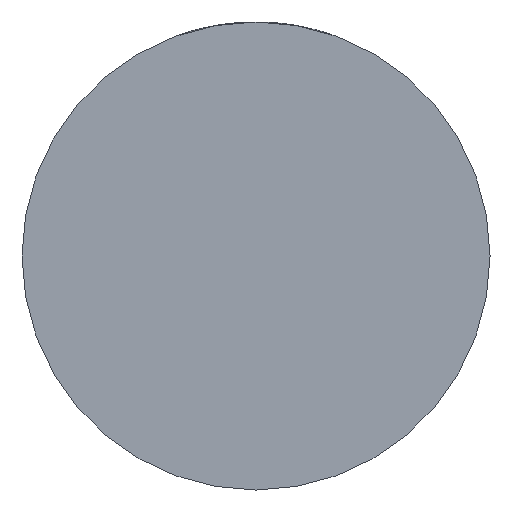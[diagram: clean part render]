
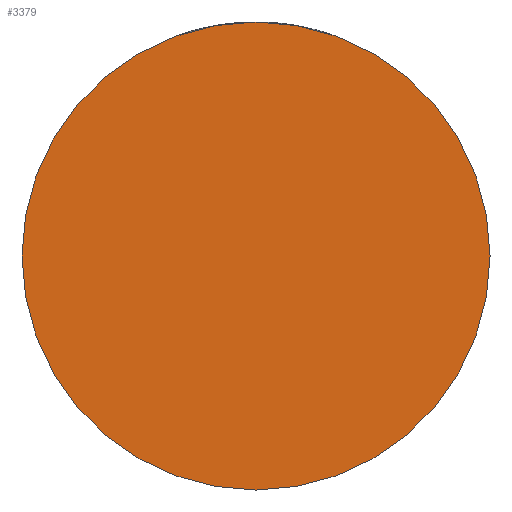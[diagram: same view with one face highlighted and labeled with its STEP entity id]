
A CAD part, front view. The second image highlights one B-rep face of the part: STEP entity #3379.
In plain terms, the highlighted planar face has unit normal (0, -1, 0).
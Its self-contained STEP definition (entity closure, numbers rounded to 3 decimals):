
#208 = DIRECTION ( 'NONE',  ( 0., -1., 0. ) ) ;
#403 = VERTEX_POINT ( 'NONE', #3765 ) ;
#594 = DIRECTION ( 'NONE',  ( 0., -1., 0. ) ) ;
#615 = CARTESIAN_POINT ( 'NONE',  ( 0., -22., 0. ) ) ;
#821 = PLANE ( 'NONE',  #4108 ) ;
#829 = CARTESIAN_POINT ( 'NONE',  ( 26.5, -22., 0. ) ) ;
#1199 = CARTESIAN_POINT ( 'NONE',  ( 0., -22., 0. ) ) ;
#1277 = ORIENTED_EDGE ( 'NONE', *, *, #3324, .T. ) ;
#1430 = AXIS2_PLACEMENT_3D ( 'NONE', #1199, #208, #2547 ) ;
#1433 = CIRCLE ( 'NONE', #4031, 26.5 ) ;
#1798 = VERTEX_POINT ( 'NONE', #829 ) ;
#2283 = DIRECTION ( 'NONE',  ( 0., -1., 0. ) ) ;
#2334 = ORIENTED_EDGE ( 'NONE', *, *, #4066, .T. ) ;
#2345 = CIRCLE ( 'NONE', #1430, 26.5 ) ;
#2547 = DIRECTION ( 'NONE',  ( 1., 0., 0. ) ) ;
#2663 = EDGE_LOOP ( 'NONE', ( #1277, #2334 ) ) ;
#2811 = FACE_OUTER_BOUND ( 'NONE', #2663, .T. ) ;
#2991 = CARTESIAN_POINT ( 'NONE',  ( 0., -22., 0. ) ) ;
#3239 = DIRECTION ( 'NONE',  ( 1., 0., 0. ) ) ;
#3324 = EDGE_CURVE ( 'NONE', #403, #1798, #2345, .T. ) ;
#3379 = ADVANCED_FACE ( 'NONE', ( #2811 ), #821, .T. ) ;
#3608 = DIRECTION ( 'NONE',  ( 1., 0., 0. ) ) ;
#3765 = CARTESIAN_POINT ( 'NONE',  ( -26.5, -22., 0. ) ) ;
#4031 = AXIS2_PLACEMENT_3D ( 'NONE', #2991, #2283, #3608 ) ;
#4066 = EDGE_CURVE ( 'NONE', #1798, #403, #1433, .T. ) ;
#4108 = AXIS2_PLACEMENT_3D ( 'NONE', #615, #594, #3239 ) ;
